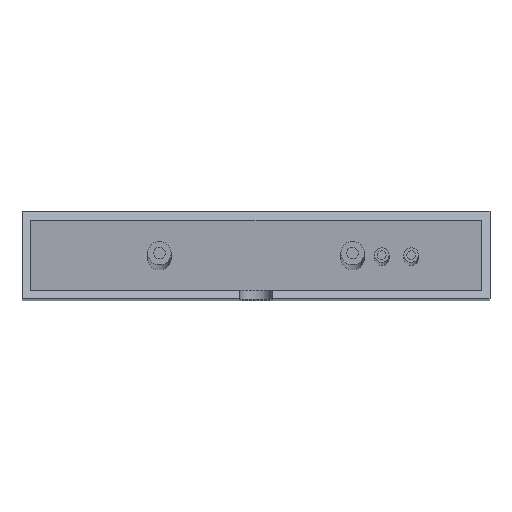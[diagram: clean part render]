
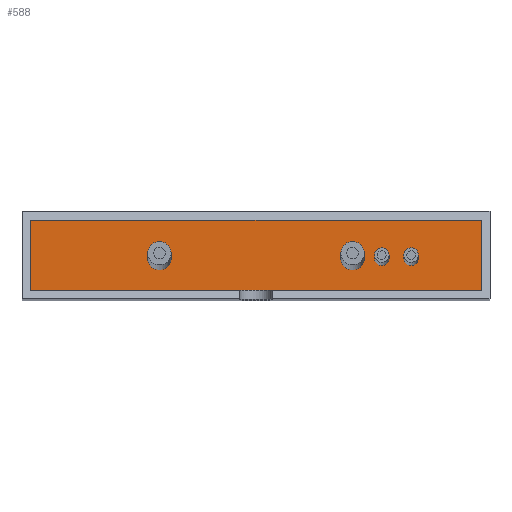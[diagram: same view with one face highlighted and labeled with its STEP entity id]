
A CAD part, top view. The second image highlights one B-rep face of the part: STEP entity #588.
In plain terms, the highlighted planar face has unit normal (0, 0, 1).
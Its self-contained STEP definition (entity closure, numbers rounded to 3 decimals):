
#16=LINE($,#891,#66);
#17=LINE($,#893,#67);
#18=LINE($,#895,#68);
#19=LINE($,#896,#69);
#66=VECTOR($,#740,77.);
#67=VECTOR($,#741,12.);
#68=VECTOR($,#742,77.);
#69=VECTOR($,#743,12.);
#121=PLANE($,#643);
#154=FACE_BOUND($,#219,.T.);
#155=FACE_BOUND($,#220,.T.);
#156=FACE_BOUND($,#221,.T.);
#157=FACE_BOUND($,#222,.T.);
#158=FACE_BOUND($,#223,.T.);
#219=EDGE_LOOP($,(#416));
#220=EDGE_LOOP($,(#417));
#221=EDGE_LOOP($,(#418));
#222=EDGE_LOOP($,(#419));
#223=EDGE_LOOP($,(#420,#421,#422,#423));
#245=CIRCLE($,#616,1.25);
#249=CIRCLE($,#624,1.25);
#253=CIRCLE($,#632,2.);
#257=CIRCLE($,#640,2.);
#265=VERTEX_POINT($,#840);
#269=VERTEX_POINT($,#852);
#273=VERTEX_POINT($,#864);
#277=VERTEX_POINT($,#876);
#282=VERTEX_POINT($,#889);
#283=VERTEX_POINT($,#890);
#284=VERTEX_POINT($,#892);
#285=VERTEX_POINT($,#894);
#317=EDGE_CURVE($,#265,#265,#245,.T.);
#321=EDGE_CURVE($,#269,#269,#249,.T.);
#325=EDGE_CURVE($,#273,#273,#253,.T.);
#329=EDGE_CURVE($,#277,#277,#257,.T.);
#334=EDGE_CURVE($,#282,#283,#16,.T.);
#335=EDGE_CURVE($,#284,#282,#17,.T.);
#336=EDGE_CURVE($,#285,#284,#18,.T.);
#337=EDGE_CURVE($,#283,#285,#19,.T.);
#416=ORIENTED_EDGE($,*,*,#317,.T.);
#417=ORIENTED_EDGE($,*,*,#321,.T.);
#418=ORIENTED_EDGE($,*,*,#325,.T.);
#419=ORIENTED_EDGE($,*,*,#329,.T.);
#420=ORIENTED_EDGE($,*,*,#334,.F.);
#421=ORIENTED_EDGE($,*,*,#335,.F.);
#422=ORIENTED_EDGE($,*,*,#336,.F.);
#423=ORIENTED_EDGE($,*,*,#337,.F.);
#588=ADVANCED_FACE($,(#154,#155,#156,#157,#158),#121,.T.);
#616=AXIS2_PLACEMENT_3D($,#841,#680,#681);
#624=AXIS2_PLACEMENT_3D($,#853,#696,#697);
#632=AXIS2_PLACEMENT_3D($,#865,#712,#713);
#640=AXIS2_PLACEMENT_3D($,#877,#728,#729);
#643=AXIS2_PLACEMENT_3D($,#888,#738,#739);
#680=DIRECTION('center_axis',(0.,0.,
-1.));
#681=DIRECTION('ref_axis',(-1.,0.,0.));
#696=DIRECTION('center_axis',(0.,0.,
-1.));
#697=DIRECTION('ref_axis',(-1.,0.,0.));
#712=DIRECTION('center_axis',(0.,0.,
-1.));
#713=DIRECTION('ref_axis',(-1.,0.,0.));
#728=DIRECTION('center_axis',(0.,0.,
-1.));
#729=DIRECTION('ref_axis',(-1.,0.,0.));
#738=DIRECTION('center_axis',(0.,0.,
1.));
#739=DIRECTION('ref_axis',(1.,0.,0.));
#740=DIRECTION($,(1.,0.,0.));
#741=DIRECTION($,(0.,1.,0.));
#742=DIRECTION($,(-1.,0.,0.));
#743=DIRECTION($,(0.,-1.,0.));
#840=CARTESIAN_POINT('',(29.172,3.909,95.773));
#841=CARTESIAN_POINT('Origin',(27.922,3.909,95.773));
#852=CARTESIAN_POINT('',(34.172,3.909,95.773));
#853=CARTESIAN_POINT('Origin',(32.922,3.909,95.773));
#864=CARTESIAN_POINT('',(-8.078,3.909,95.773));
#865=CARTESIAN_POINT('Origin',(-10.078,3.909,95.773));
#876=CARTESIAN_POINT('',(24.922,3.909,95.773));
#877=CARTESIAN_POINT('Origin',(22.922,3.909,95.773));
#888=CARTESIAN_POINT('Origin',(6.422,4.409,95.773));
#889=CARTESIAN_POINT('',(-32.078,10.409,95.773));
#890=CARTESIAN_POINT('',(44.922,10.409,95.773));
#891=CARTESIAN_POINT($,(26.422,10.409,95.773));
#892=CARTESIAN_POINT('',(-32.078,-1.591,95.773));
#893=CARTESIAN_POINT($,(-32.078,8.159,95.773));
#894=CARTESIAN_POINT('',(44.922,-1.591,95.773));
#895=CARTESIAN_POINT($,(-13.578,-1.591,95.773));
#896=CARTESIAN_POINT($,(44.922,0.659,95.773));
